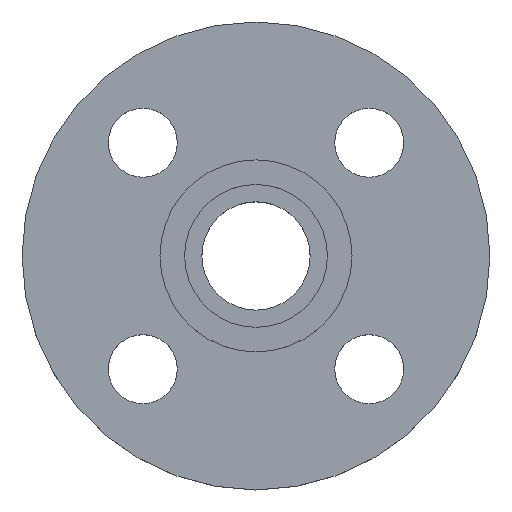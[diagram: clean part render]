
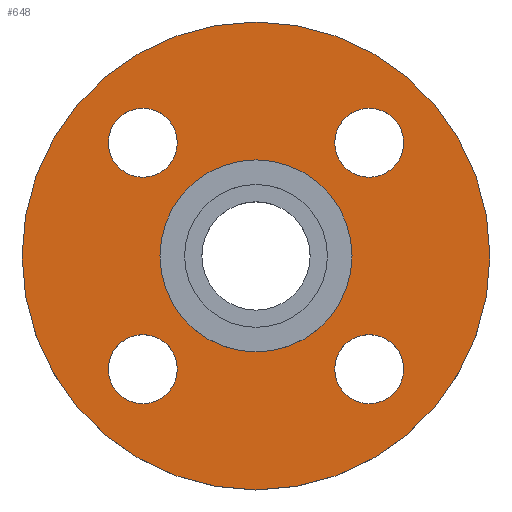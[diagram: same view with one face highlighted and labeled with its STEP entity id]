
A CAD part, top view. The second image highlights one B-rep face of the part: STEP entity #648.
In plain terms, the highlighted planar face has unit normal (0, 0, 1).
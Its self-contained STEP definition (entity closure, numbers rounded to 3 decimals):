
#1 = EDGE_CURVE ( 'NONE', #688, #495, #596, .T. ) ;
#8 = AXIS2_PLACEMENT_3D ( 'NONE', #414, #415, #416 ) ;
#11 = AXIS2_PLACEMENT_3D ( 'NONE', #199, #362, #368 ) ;
#19 = AXIS2_PLACEMENT_3D ( 'NONE', #455, #456, #457 ) ;
#23 = CIRCLE ( 'NONE', #24, 19.5 ) ;
#24 = AXIS2_PLACEMENT_3D ( 'NONE', #296, #309, #298 ) ;
#26 = CIRCLE ( 'NONE', #11, 7. ) ;
#43 = AXIS2_PLACEMENT_3D ( 'NONE', #370, #304, #124 ) ;
#56 = AXIS2_PLACEMENT_3D ( 'NONE', #202, #201, #200 ) ;
#85 = AXIS2_PLACEMENT_3D ( 'NONE', #358, #365, #366 ) ;
#88 = CIRCLE ( 'NONE', #91, 7. ) ;
#91 = AXIS2_PLACEMENT_3D ( 'NONE', #162, #159, #157 ) ;
#105 = CIRCLE ( 'NONE', #283, 47.5 ) ;
#107 = CIRCLE ( 'NONE', #19, 19.5 ) ;
#120 = CARTESIAN_POINT ( 'NONE',  ( -15.981, 22.981, -4.5 ) ) ;
#124 = DIRECTION ( 'NONE',  ( 1., 0., 0. ) ) ;
#146 = CIRCLE ( 'NONE', #180, 7. ) ;
#148 = CARTESIAN_POINT ( 'NONE',  ( -15.981, -22.981, -4.5 ) ) ;
#149 = DIRECTION ( 'NONE',  ( -1., 0., 0. ) ) ;
#150 = DIRECTION ( 'NONE',  ( 0., 0., -1. ) ) ;
#151 = CARTESIAN_POINT ( 'NONE',  ( 0., 0., -4.5 ) ) ;
#157 = DIRECTION ( 'NONE',  ( 1., 0., 0. ) ) ;
#158 = AXIS2_PLACEMENT_3D ( 'NONE', #315, #314, #373 ) ;
#159 = DIRECTION ( 'NONE',  ( 0., 0., -1. ) ) ;
#160 = CIRCLE ( 'NONE', #8, 47.5 ) ;
#162 = CARTESIAN_POINT ( 'NONE',  ( -22.981, -22.981, -4.5 ) ) ;
#167 = CIRCLE ( 'NONE', #158, 7. ) ;
#170 = CARTESIAN_POINT ( 'NONE',  ( 15.981, -22.981, -4.5 ) ) ;
#180 = AXIS2_PLACEMENT_3D ( 'NONE', #371, #376, #378 ) ;
#190 = CARTESIAN_POINT ( 'NONE',  ( -47.5, 0., -4.5 ) ) ;
#199 = CARTESIAN_POINT ( 'NONE',  ( 22.981, 22.981, -4.5 ) ) ;
#200 = DIRECTION ( 'NONE',  ( 1., 0., 0. ) ) ;
#201 = DIRECTION ( 'NONE',  ( 0., 0., 1. ) ) ;
#202 = CARTESIAN_POINT ( 'NONE',  ( 19.5, 0., -4.5 ) ) ;
#203 = PLANE ( 'NONE',  #56 ) ;
#204 = FACE_OUTER_BOUND ( 'NONE', #618, .T. ) ;
#205 = CIRCLE ( 'NONE', #260, 7. ) ;
#206 = FACE_BOUND ( 'NONE', #508, .T. ) ;
#208 = FACE_BOUND ( 'NONE', #499, .T. ) ;
#209 = FACE_BOUND ( 'NONE', #543, .T. ) ;
#210 = FACE_BOUND ( 'NONE', #501, .T. ) ;
#211 = FACE_BOUND ( 'NONE', #532, .T. ) ;
#225 = CIRCLE ( 'NONE', #85, 7. ) ;
#227 = CARTESIAN_POINT ( 'NONE',  ( -29.981, -22.981, -4.5 ) ) ;
#232 = CARTESIAN_POINT ( 'NONE',  ( -19.5, 0., -4.5 ) ) ;
#246 = EDGE_CURVE ( 'NONE', #495, #688, #205, .T. ) ;
#247 = CARTESIAN_POINT ( 'NONE',  ( -29.981, 22.981, -4.5 ) ) ;
#260 = AXIS2_PLACEMENT_3D ( 'NONE', #277, #278, #280 ) ;
#277 = CARTESIAN_POINT ( 'NONE',  ( 22.981, -22.981, -4.5 ) ) ;
#278 = DIRECTION ( 'NONE',  ( 0., 0., -1. ) ) ;
#280 = DIRECTION ( 'NONE',  ( 1., 0., 0. ) ) ;
#283 = AXIS2_PLACEMENT_3D ( 'NONE', #151, #150, #149 ) ;
#296 = CARTESIAN_POINT ( 'NONE',  ( 0., 0., -4.5 ) ) ;
#298 = DIRECTION ( 'NONE',  ( -1., 0., 0. ) ) ;
#304 = DIRECTION ( 'NONE',  ( 0., 0., -1. ) ) ;
#309 = DIRECTION ( 'NONE',  ( 0., 0., -1. ) ) ;
#310 = CARTESIAN_POINT ( 'NONE',  ( 15.981, 22.981, -4.5 ) ) ;
#314 = DIRECTION ( 'NONE',  ( 0., 0., -1. ) ) ;
#315 = CARTESIAN_POINT ( 'NONE',  ( -22.981, 22.981, -4.5 ) ) ;
#323 = CARTESIAN_POINT ( 'NONE',  ( 19.5, 0., -4.5 ) ) ;
#330 = EDGE_CURVE ( 'NONE', #726, #630, #225, .T. ) ;
#332 = EDGE_CURVE ( 'NONE', #636, #708, #146, .T. ) ;
#336 = CARTESIAN_POINT ( 'NONE',  ( 29.981, 22.981, -4.5 ) ) ;
#352 = CIRCLE ( 'NONE', #43, 7. ) ;
#358 = CARTESIAN_POINT ( 'NONE',  ( -22.981, 22.981, -4.5 ) ) ;
#360 = CARTESIAN_POINT ( 'NONE',  ( 47.5, 0., -4.5 ) ) ;
#362 = DIRECTION ( 'NONE',  ( 0., 0., -1. ) ) ;
#365 = DIRECTION ( 'NONE',  ( 0., 0., -1. ) ) ;
#366 = DIRECTION ( 'NONE',  ( 1., 0., 0. ) ) ;
#368 = DIRECTION ( 'NONE',  ( 1., 0., 0. ) ) ;
#370 = CARTESIAN_POINT ( 'NONE',  ( 22.981, 22.981, -4.5 ) ) ;
#371 = CARTESIAN_POINT ( 'NONE',  ( -22.981, -22.981, -4.5 ) ) ;
#373 = DIRECTION ( 'NONE',  ( 1., 0., 0. ) ) ;
#376 = DIRECTION ( 'NONE',  ( 0., 0., -1. ) ) ;
#378 = DIRECTION ( 'NONE',  ( 1., 0., 0. ) ) ;
#388 = EDGE_CURVE ( 'NONE', #500, #654, #160, .T. ) ;
#414 = CARTESIAN_POINT ( 'NONE',  ( 0., 0., -4.5 ) ) ;
#415 = DIRECTION ( 'NONE',  ( 0., 0., -1. ) ) ;
#416 = DIRECTION ( 'NONE',  ( -1., 0., 0. ) ) ;
#455 = CARTESIAN_POINT ( 'NONE',  ( 0., 0., -4.5 ) ) ;
#456 = DIRECTION ( 'NONE',  ( 0., 0., -1. ) ) ;
#457 = DIRECTION ( 'NONE',  ( -1., 0., 0. ) ) ;
#478 = EDGE_CURVE ( 'NONE', #604, #535, #107, .T. ) ;
#495 = VERTEX_POINT ( 'NONE', #790 ) ;
#499 = EDGE_LOOP ( 'NONE', ( #603, #606 ) ) ;
#500 = VERTEX_POINT ( 'NONE', #360 ) ;
#501 = EDGE_LOOP ( 'NONE', ( #599, #600 ) ) ;
#503 = EDGE_CURVE ( 'NONE', #535, #604, #23, .T. ) ;
#504 = VERTEX_POINT ( 'NONE', #310 ) ;
#508 = EDGE_LOOP ( 'NONE', ( #607, #608 ) ) ;
#509 = EDGE_CURVE ( 'NONE', #533, #504, #26, .T. ) ;
#532 = EDGE_LOOP ( 'NONE', ( #594, #598 ) ) ;
#533 = VERTEX_POINT ( 'NONE', #336 ) ;
#535 = VERTEX_POINT ( 'NONE', #323 ) ;
#543 = EDGE_LOOP ( 'NONE', ( #601, #602 ) ) ;
#591 = EDGE_CURVE ( 'NONE', #630, #726, #167, .T. ) ;
#594 = ORIENTED_EDGE ( 'NONE', *, *, #246, .T. ) ;
#595 = AXIS2_PLACEMENT_3D ( 'NONE', #730, #732, #734 ) ;
#596 = CIRCLE ( 'NONE', #595, 7. ) ;
#598 = ORIENTED_EDGE ( 'NONE', *, *, #1, .T. ) ;
#599 = ORIENTED_EDGE ( 'NONE', *, *, #699, .T. ) ;
#600 = ORIENTED_EDGE ( 'NONE', *, *, #332, .T. ) ;
#601 = ORIENTED_EDGE ( 'NONE', *, *, #330, .T. ) ;
#602 = ORIENTED_EDGE ( 'NONE', *, *, #591, .T. ) ;
#603 = ORIENTED_EDGE ( 'NONE', *, *, #509, .T. ) ;
#604 = VERTEX_POINT ( 'NONE', #232 ) ;
#606 = ORIENTED_EDGE ( 'NONE', *, *, #624, .T. ) ;
#607 = ORIENTED_EDGE ( 'NONE', *, *, #478, .T. ) ;
#608 = ORIENTED_EDGE ( 'NONE', *, *, #503, .T. ) ;
#609 = ORIENTED_EDGE ( 'NONE', *, *, #388, .F. ) ;
#610 = ORIENTED_EDGE ( 'NONE', *, *, #707, .F. ) ;
#618 = EDGE_LOOP ( 'NONE', ( #609, #610 ) ) ;
#624 = EDGE_CURVE ( 'NONE', #504, #533, #352, .T. ) ;
#630 = VERTEX_POINT ( 'NONE', #247 ) ;
#636 = VERTEX_POINT ( 'NONE', #227 ) ;
#648 = ADVANCED_FACE ( 'NONE', ( #211, #210, #209, #208, #206, #204 ), #203, .T. ) ;
#654 = VERTEX_POINT ( 'NONE', #190 ) ;
#688 = VERTEX_POINT ( 'NONE', #170 ) ;
#699 = EDGE_CURVE ( 'NONE', #708, #636, #88, .T. ) ;
#707 = EDGE_CURVE ( 'NONE', #654, #500, #105, .T. ) ;
#708 = VERTEX_POINT ( 'NONE', #148 ) ;
#726 = VERTEX_POINT ( 'NONE', #120 ) ;
#730 = CARTESIAN_POINT ( 'NONE',  ( 22.981, -22.981, -4.5 ) ) ;
#732 = DIRECTION ( 'NONE',  ( 0., 0., -1. ) ) ;
#734 = DIRECTION ( 'NONE',  ( 1., 0., 0. ) ) ;
#790 = CARTESIAN_POINT ( 'NONE',  ( 29.981, -22.981, -4.5 ) ) ;
